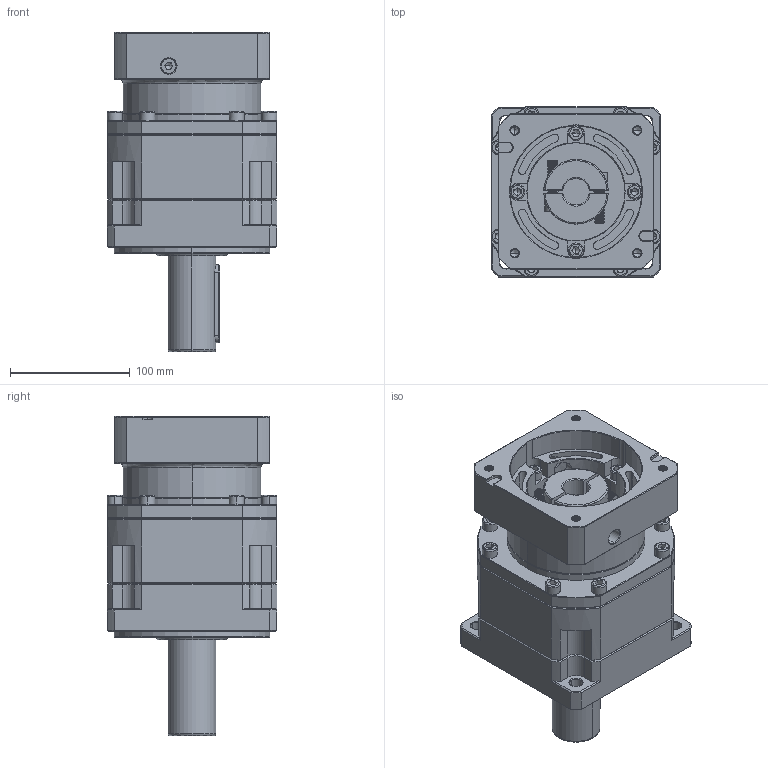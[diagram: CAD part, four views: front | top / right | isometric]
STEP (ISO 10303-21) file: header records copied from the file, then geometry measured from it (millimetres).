
FILE_DESCRIPTION (( 'STEP AP214' ), '1' );
FILE_NAME ('ZB142A-D40-L1-22-110-145-M8.step', '2023-03-17T10:45:34', ( '' ), ( '' ), 'SwSTEP 2.0', 'SolidWorks 2016', '' );
FILE_SCHEMA (( 'AUTOMOTIVE_DESIGN' ));
Length unit declared in the file: millimetre
Products named in the file (1): ZB142A-D40-L1-22-110-145-M8
Bounding box: 142 x 142 x 266.8 mm (x, y, z)
Volume: 2771696.4 mm3; surface area: 286103.3 mm2
Topology: 7 solids, 7 shells, 2325 faces, 6082 edges, 3866 vertices
Faces by surface type: plane 1053, cylinder 518, cone 386, bspline 312, torus 56
Entity records: 129238 total; most frequent: CARTESIAN_POINT 49174, ORIENTED_EDGE 12056, DIRECTION 10202, EDGE_CURVE 6028, VERTEX_POINT 3866, LINE 3678, VECTOR 3678, AXIS2_PLACEMENT_3D 3262
